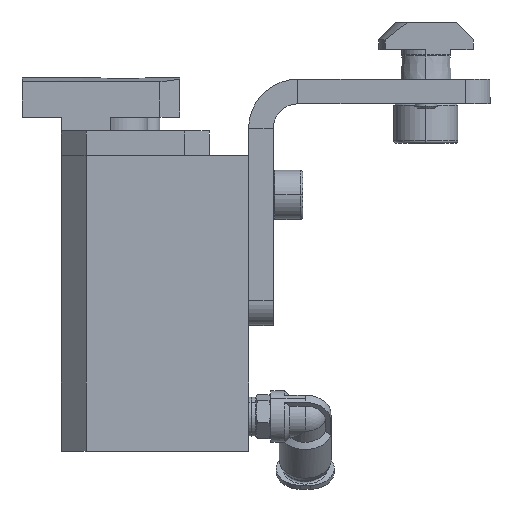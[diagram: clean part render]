
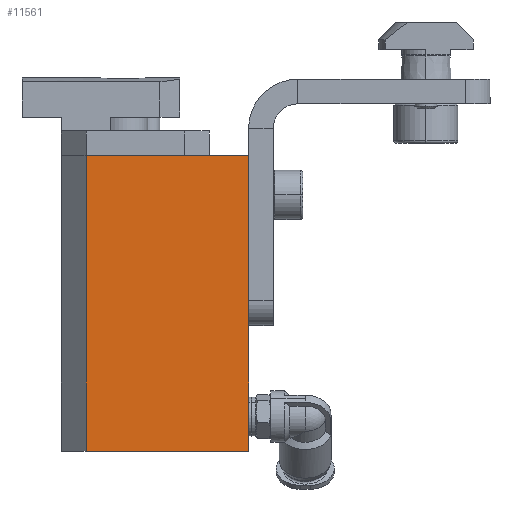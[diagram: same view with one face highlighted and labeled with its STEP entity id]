
A CAD part, left-side view. The second image highlights one B-rep face of the part: STEP entity #11561.
In plain terms, the highlighted planar face has unit normal (-1, 0, 0).
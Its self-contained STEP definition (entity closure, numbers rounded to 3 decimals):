
#1450 = ORIENTED_EDGE ( 'NONE', *, *, #11599, .F. ) ;
#1638 = EDGE_CURVE ( 'NONE', #12832, #14554, #18436, .T. ) ;
#1846 = CARTESIAN_POINT ( 'NONE',  ( -20., 0., -15.75 ) ) ;
#1929 = DIRECTION ( 'NONE',  ( -1., 0., 0. ) ) ;
#3284 = LINE ( 'NONE', #4511, #22105 ) ;
#3840 = CARTESIAN_POINT ( 'NONE',  ( -20., 0., -15.75 ) ) ;
#4023 = ORIENTED_EDGE ( 'NONE', *, *, #6310, .T. ) ;
#4098 = AXIS2_PLACEMENT_3D ( 'NONE', #9183, #1929, #14628 ) ;
#4511 = CARTESIAN_POINT ( 'NONE',  ( -20., 0., -75.75 ) ) ;
#4893 = CARTESIAN_POINT ( 'NONE',  ( -20., 33., -75.75 ) ) ;
#5212 = VERTEX_POINT ( 'NONE', #1846 ) ;
#6310 = EDGE_CURVE ( 'NONE', #6812, #12832, #11201, .T. ) ;
#6812 = VERTEX_POINT ( 'NONE', #21817 ) ;
#7541 = EDGE_CURVE ( 'NONE', #14554, #5212, #3284, .T. ) ;
#7613 = EDGE_LOOP ( 'NONE', ( #1450, #4023, #16928, #14140 ) ) ;
#8562 = VECTOR ( 'NONE', #16534, 1000. ) ;
#9183 = CARTESIAN_POINT ( 'NONE',  ( -20., 0., -75.75 ) ) ;
#10244 = CARTESIAN_POINT ( 'NONE',  ( -20., 33., -75.75 ) ) ;
#10480 = DIRECTION ( 'NONE',  ( 0., -1., 0. ) ) ;
#11201 = LINE ( 'NONE', #10244, #13184 ) ;
#11561 = ADVANCED_FACE ( 'NONE', ( #13932 ), #12837, .T. ) ;
#11599 = EDGE_CURVE ( 'NONE', #6812, #5212, #22510, .T. ) ;
#12832 = VERTEX_POINT ( 'NONE', #4893 ) ;
#12837 = PLANE ( 'NONE',  #4098 ) ;
#13184 = VECTOR ( 'NONE', #19214, 1000. ) ;
#13932 = FACE_OUTER_BOUND ( 'NONE', #7613, .T. ) ;
#14140 = ORIENTED_EDGE ( 'NONE', *, *, #7541, .T. ) ;
#14149 = VECTOR ( 'NONE', #10480, 1000. ) ;
#14554 = VERTEX_POINT ( 'NONE', #17030 ) ;
#14628 = DIRECTION ( 'NONE',  ( 0., 0., 1. ) ) ;
#16534 = DIRECTION ( 'NONE',  ( 0., -1., 0. ) ) ;
#16576 = CARTESIAN_POINT ( 'NONE',  ( -20., 0., -75.75 ) ) ;
#16928 = ORIENTED_EDGE ( 'NONE', *, *, #1638, .T. ) ;
#17030 = CARTESIAN_POINT ( 'NONE',  ( -20., 0., -75.75 ) ) ;
#17185 = DIRECTION ( 'NONE',  ( 0., 0., 1. ) ) ;
#18436 = LINE ( 'NONE', #16576, #14149 ) ;
#19214 = DIRECTION ( 'NONE',  ( 0., 0., -1. ) ) ;
#21817 = CARTESIAN_POINT ( 'NONE',  ( -20., 33., -15.75 ) ) ;
#22105 = VECTOR ( 'NONE', #17185, 1000. ) ;
#22510 = LINE ( 'NONE', #3840, #8562 ) ;
